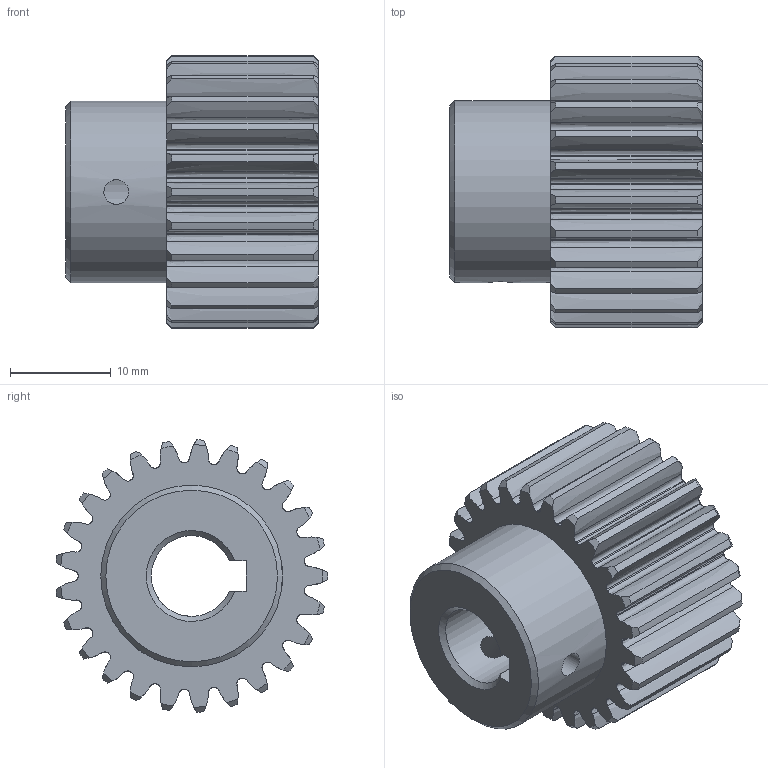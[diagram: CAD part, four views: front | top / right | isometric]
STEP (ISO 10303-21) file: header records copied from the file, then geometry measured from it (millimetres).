
FILE_DESCRIPTION(('STEP AP214'), '1');
FILE_NAME('GS1-T25D8 - Øåñòåðíÿ', '2018-02-16T11:01:31', (''), (''), 'ASCON STEP Converter 1.3', 'ASCON Math Kernel', '');
FILE_SCHEMA(('AUTOMOTIVE_DESIGN { 1 0 10303 214 3 1 1}'));
Length unit declared in the file: millimetre
Products named in the file (1): GS1-T25D8
Bounding box: 25 x 26.93 x 26.98 mm (x, y, z)
Volume: 8393.7 mm3; surface area: 4426.9 mm2
Topology: 1 solids, 1 shells, 213 faces, 629 edges, 419 vertices
Faces by surface type: extrusion 100, cylinder 54, cone 53, plane 6
Full cylindrical faces by diameter (mm): 2.458 x2, 18 x1
Entity records: 11851 total; most frequent: CARTESIAN_POINT 4776, ORIENTED_EDGE 1250, DIRECTION 804, EDGE_CURVE 625, VERTEX_POINT 419, B_SPLINE_CURVE_WITH_KNOTS 406, AXIS2_PLACEMENT_3D 272, VECTOR 260
